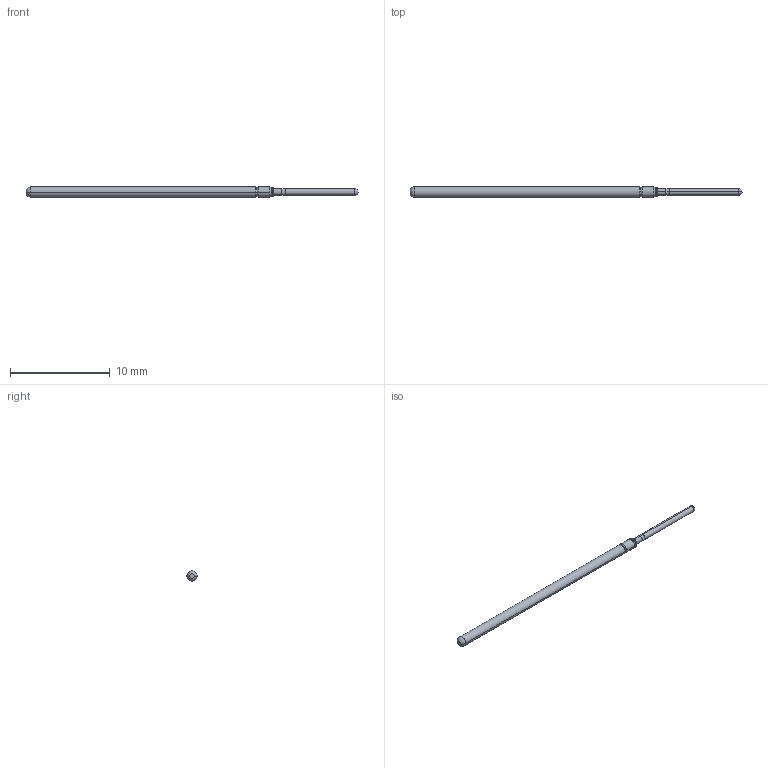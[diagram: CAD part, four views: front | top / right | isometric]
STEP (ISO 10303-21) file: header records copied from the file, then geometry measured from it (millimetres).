
FILE_DESCRIPTION (( 'STEP AP203' ), '1' );
FILE_NAME ('101024-035-922 (REST).STEP', '2022-11-18T09:48:10', ( '' ), ( '' ), 'SwSTEP 2.0', 'SolidWorks 2022', '' );
FILE_SCHEMA (( 'CONFIG_CONTROL_DESIGN' ));
Length unit declared in the file: inch
Products named in the file (1): 101024-035-922 (REST)
Bounding box: 33.27 x 1.02 x 1.02 mm (x, y, z)
Volume: 22.8 mm3; surface area: 97.1 mm2
Topology: 1 solids, 1 shells, 27 faces, 56 edges, 31 vertices
Faces by surface type: cylinder 10, torus 6, cone 6, plane 3, sphere 2
Entity records: 765 total; most frequent: DIRECTION 144, CARTESIAN_POINT 109, ORIENTED_EDGE 104, AXIS2_PLACEMENT_3D 64, EDGE_CURVE 52, CIRCLE 36, VERTEX_POINT 29, EDGE_LOOP 29
